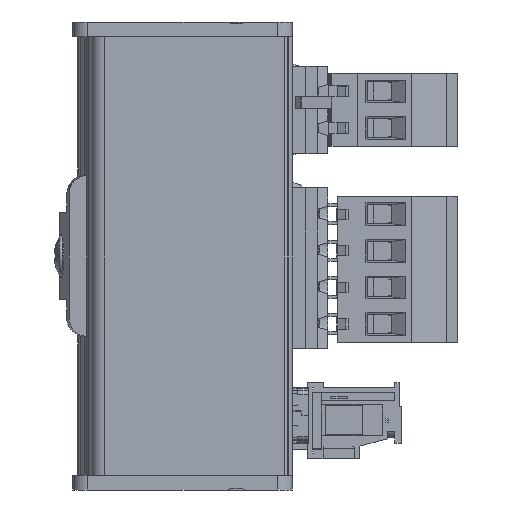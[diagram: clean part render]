
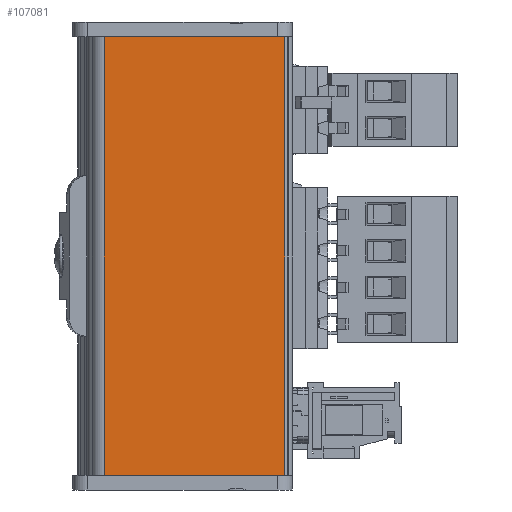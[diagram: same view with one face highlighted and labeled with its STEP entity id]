
A CAD part, front view. The second image highlights one B-rep face of the part: STEP entity #107081.
In plain terms, the highlighted planar face has unit normal (0, -1, 0).
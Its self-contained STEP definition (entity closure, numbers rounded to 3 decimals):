
#4857=PLANE('',#114844);
#9993=FACE_OUTER_BOUND('',#15760,.T.);
#15760=EDGE_LOOP('',(#94481,#94482,#94483,#94484,#94485,#94486));
#19716=LINE('',#148056,#31538);
#19789=LINE('',#148319,#31611);
#19822=LINE('',#148438,#31644);
#19878=LINE('',#148646,#31700);
#30213=LINE('',#175838,#42035);
#30214=LINE('',#175840,#42036);
#31538=VECTOR('',#117690,24.706);
#31611=VECTOR('',#117923,24.706);
#31644=VECTOR('',#118028,24.706);
#31700=VECTOR('',#118224,24.706);
#42035=VECTOR('',#141279,60.);
#42036=VECTOR('',#141282,60.);
#43658=VERTEX_POINT('',#148053);
#43659=VERTEX_POINT('',#148055);
#43763=VERTEX_POINT('',#148317);
#43812=VERTEX_POINT('',#148435);
#43813=VERTEX_POINT('',#148437);
#43889=VERTEX_POINT('',#148645);
#53510=EDGE_CURVE('',#43659,#43658,#19716,.T.);
#53643=EDGE_CURVE('',#43658,#43763,#19789,.T.);
#53704=EDGE_CURVE('',#43813,#43812,#19822,.T.);
#53808=EDGE_CURVE('',#43889,#43813,#19878,.T.);
#66192=EDGE_CURVE('',#43763,#43889,#30213,.T.);
#66193=EDGE_CURVE('',#43659,#43812,#30214,.T.);
#94481=ORIENTED_EDGE('',*,*,#53808,.T.);
#94482=ORIENTED_EDGE('',*,*,#53704,.T.);
#94483=ORIENTED_EDGE('',*,*,#66193,.F.);
#94484=ORIENTED_EDGE('',*,*,#53510,.T.);
#94485=ORIENTED_EDGE('',*,*,#53643,.T.);
#94486=ORIENTED_EDGE('',*,*,#66192,.T.);
#107081=ADVANCED_FACE('',(#9993),#4857,.T.);
#114844=AXIS2_PLACEMENT_3D('',#175839,#141280,#141281);
#117690=DIRECTION('',(1.,0.,0.));
#117923=DIRECTION('',(1.,0.,0.));
#118028=DIRECTION('',(-1.,0.,0.));
#118224=DIRECTION('',(-1.,0.,0.));
#141279=DIRECTION('',(0.,0.,1.));
#141280=DIRECTION('center_axis',(0.,-1.,0.));
#141281=DIRECTION('ref_axis',(0.,0.,-1.));
#141282=DIRECTION('',(0.,0.,1.));
#148053=CARTESIAN_POINT('',(467.227,201.934,0.));
#148055=CARTESIAN_POINT('',(442.553,201.934,0.));
#148056=CARTESIAN_POINT('',(442.553,201.934,0.));
#148317=CARTESIAN_POINT('',(467.259,201.934,0.));
#148319=CARTESIAN_POINT('',(442.553,201.934,0.));
#148435=CARTESIAN_POINT('',(442.553,201.934,60.));
#148437=CARTESIAN_POINT('',(467.227,201.934,60.));
#148438=CARTESIAN_POINT('',(467.259,201.934,60.));
#148645=CARTESIAN_POINT('',(467.259,201.934,60.));
#148646=CARTESIAN_POINT('',(467.259,201.934,60.));
#175838=CARTESIAN_POINT('',(467.259,201.934,0.));
#175839=CARTESIAN_POINT('Origin',(467.259,201.934,0.));
#175840=CARTESIAN_POINT('',(442.553,201.934,0.));
